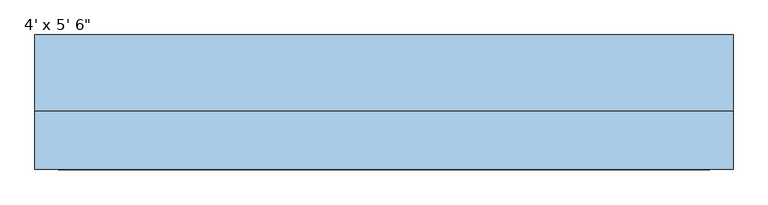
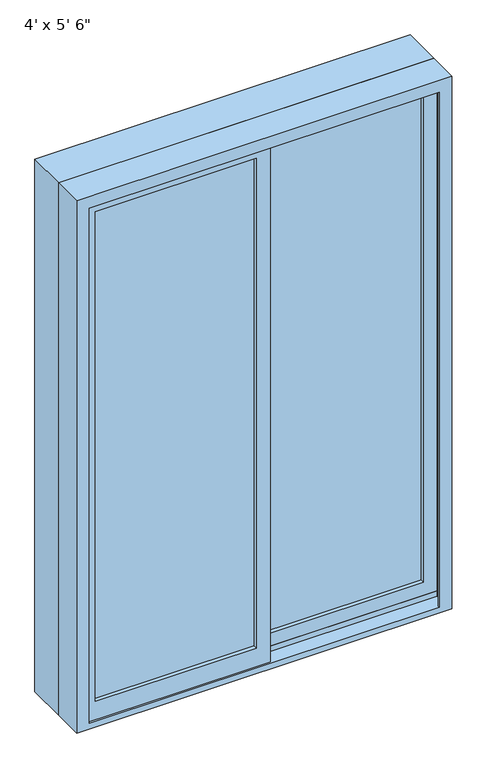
"""IFC4 building model written with IfcOpenShell, lengths in millimetres: window geometry."""

from ifc_helpers import new_model, si_unit, frame, origin, place, context, project, spatial, polyline, outline, extrude, faceted_brep, source, transform, mapped, element, save


def window_37b48831(model_context):
    return source(origin(), model_context, "Body", "SolidModel", [
        extrude(outline(polyline([(933.45, 22.225), (2724.15, 22.225), (2724.15, -590.55), (933.45, -590.55), (933.45, 22.225)]), holes=[polyline([(2679.7, -546.1), (2679.7, -22.225), (996.95, -22.225), (996.95, -546.1), (2679.7, -546.1)])]), frame((0.0, -116.84, 0.0), z_axis=(0.0, 1.0, 0.0), x_axis=(0.0, 0.0, 1.0)), (0.0, 0.0, 1.0), 44.45),
        extrude(outline(polyline([(952.5, -22.225), (952.5, 590.55), (2724.15, 590.55), (2724.15, -22.225), (952.5, -22.225)]), holes=[polyline([(996.95, 546.1), (996.95, 22.225), (2679.7, 22.225), (2679.7, 546.1), (996.95, 546.1)])]), frame((0.0, -72.39, 0.0), z_axis=(0.0, 1.0, 0.0), x_axis=(0.0, 0.0, 1.0)), (0.0, 0.0, 1.0), 44.45),
        faceted_brep([(-609.6, -21.59, 914.4), (609.6, -21.59, 914.4), (609.6, -123.19, 914.4), (-609.6, -123.19, 914.4), (-568.6778905, -123.19, 2702.2778905), (-568.6778905, -123.19, 933.45), (-568.6778905, -116.84, 933.45), (-568.6778905, -116.84, 2702.2778905), (-590.55, -116.84, 933.45), (-590.55, -116.84, 2724.15), (590.55, -116.84, 2724.15), (590.55, -116.84, 933.45), (568.6778905, -116.84, 933.45), (568.6778905, -116.84, 2702.2778905), (-590.55, -72.39, 933.45), (-590.55, -72.39, 952.5), (-590.55, -27.94, 952.5), (-590.55, -27.94, 933.45), (-590.55, -21.59, 933.45), (-590.55, -21.59, 2724.15), (-609.6, -21.59, 2743.2), (609.6, -21.59, 2743.2), (590.55, -21.59, 2724.15), (590.55, -21.59, 933.45), (-609.6, -123.19, 2743.2), (609.6, -123.19, 2743.2), (568.6778905, -123.19, 2702.2778905), (568.6778905, -123.19, 933.45), (590.55, -27.94, 933.45), (590.55, -27.94, 952.5), (590.55, -72.39, 952.5), (590.55, -72.39, 933.45)], [[[0, 1, 2, 3]], [[4, 5, 6, 7]], [[7, 6, 8, 9, 10, 11, 12, 13]], [[9, 8, 14, 15, 16, 17, 18, 19]], [[0, 20, 21, 1], [22, 19, 18, 23]], [[24, 20, 0, 3]], [[2, 25, 24, 3], [4, 26, 27, 5]], [[7, 13, 26, 4]], [[9, 19, 22, 10]], [[20, 24, 25, 21]], [[13, 12, 27, 26]], [[22, 23, 28, 29, 30, 31, 11, 10]], [[21, 25, 2, 1]], [[27, 12, 11, 31, 14, 8, 6, 5]], [[31, 30, 15, 14]], [[30, 29, 16, 15]], [[29, 28, 17, 16]], [[18, 17, 28, 23]]]),
        extrude(outline(polyline([(2743.2, 609.6), (2743.2, -609.6), (914.4, -609.6), (914.4, 609.6), (2743.2, 609.6)]), holes=[polyline([(2724.15, -590.55), (2724.15, 590.55), (933.45, 590.55), (933.45, -590.55), (2724.15, -590.55)])]), frame((0.0, -21.59, 0.0), z_axis=(0.0, 1.0, 0.0), x_axis=(0.0, 0.0, 1.0)), (0.0, 0.0, 1.0), 133.35),
        extrude(outline(polyline([(546.1, -59.69), (22.225, -59.69), (22.225, -53.34), (546.1, -53.34), (546.1, -59.69)])), frame((0.0, 0.0, 996.95), z_axis=(0.0, 0.0, 1.0), x_axis=(1.0, 0.0, 0.0)), (0.0, 0.0, 1.0), 1682.75),
        extrude(outline(polyline([(546.1, -46.99), (22.225, -46.99), (22.225, -40.64), (546.1, -40.64), (546.1, -46.99)])), frame((0.0, 0.0, 996.95), z_axis=(0.0, 0.0, 1.0), x_axis=(1.0, 0.0, 0.0)), (0.0, 0.0, 1.0), 1682.75),
        extrude(outline(polyline([(-22.225, -104.14), (-546.1, -104.14), (-546.1, -97.79), (-22.225, -97.79), (-22.225, -104.14)])), frame((0.0, 0.0, 996.95), z_axis=(0.0, 0.0, 1.0), x_axis=(1.0, 0.0, 0.0)), (0.0, 0.0, 1.0), 1682.75),
        extrude(outline(polyline([(-22.225, -91.44), (-546.1, -91.44), (-546.1, -85.09), (-22.225, -85.09), (-22.225, -91.44)])), frame((0.0, 0.0, 996.95), z_axis=(0.0, 0.0, 1.0), x_axis=(1.0, 0.0, 0.0)), (0.0, 0.0, 1.0), 1682.75),
    ])


if __name__ == "__main__":
    model = new_model("IFC4")
    model_context = context("Model", 3, world=origin())
    ifc_project = project(units=[si_unit("LENGTHUNIT", "METRE", prefix="MILLI")], contexts=[model_context])
    site = spatial("IfcSite", under=ifc_project)
    building = spatial("IfcBuilding", under=site)
    placement = place(None, origin())
    window_shape = window_37b48831(model_context)
    element("IfcWindow", 1, ObjectType="Planitar-Sliding-Double : 4' x 5' 6\"", at=placement, inside=building, context=model_context, shape_type="MappedRepresentation", body=[
        mapped(window_shape, transform((0.0, 0.0, 0.0), x_axis=(1.0, 0.0, 0.0), y_axis=(0.0, 1.0, 0.0), z_axis=(0.0, 0.0, 1.0))),
    ])
    save(model, "model.ifc")
